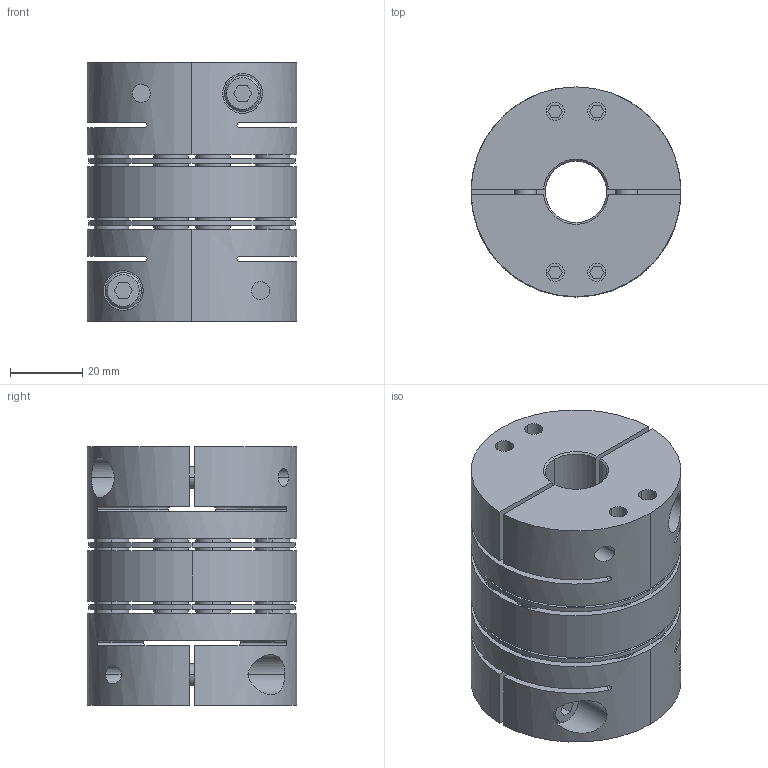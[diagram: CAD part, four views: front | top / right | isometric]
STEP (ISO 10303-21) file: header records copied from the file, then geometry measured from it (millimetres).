
FILE_DESCRIPTION((''),'2;1');
FILE_NAME('TAD-58C-17×30.stp','2022-11-13T22:22:40',(''),(''),'AutoCAD STEP 2000i','AutoCAD 2000i',', , ');
FILE_SCHEMA(('CONFIG_CONTROL_DESIGN'));
Length unit declared in the file: millimetre
Products named in the file (7): TAD-58C-12×22; 忣兜1; TA58C-22; CAP-M6×20; TA58C-12-2; TA58C-12; TAS-58C-ITA
Assembly tree (8 placements, depth 3):
  TAD-58C-12×22
    忣兜1
    TA58C-22
      CAP-M6×20
    TA58C-12-2
      CAP-M6×20
    TA58C-12
      CAP-M6×20
    TAS-58C-ITA
Bounding box: 58 x 58 x 71.5 mm (x, y, z)
Volume: 126570.3 mm3; surface area: 54822.5 mm2
Topology: 1 solids, 5 shells, 568 faces, 1365 edges, 937 vertices
Faces by surface type: plane 252, cylinder 228, cone 72, bspline 16
Entity records: 18651 total; most frequent: CARTESIAN_POINT 4810, DIRECTION 3008, ORIENTED_EDGE 2640, EDGE_CURVE 1320, AXIS2_PLACEMENT_3D 1142, VERTEX_POINT 860, EDGE_LOOP 724, VECTOR 724
